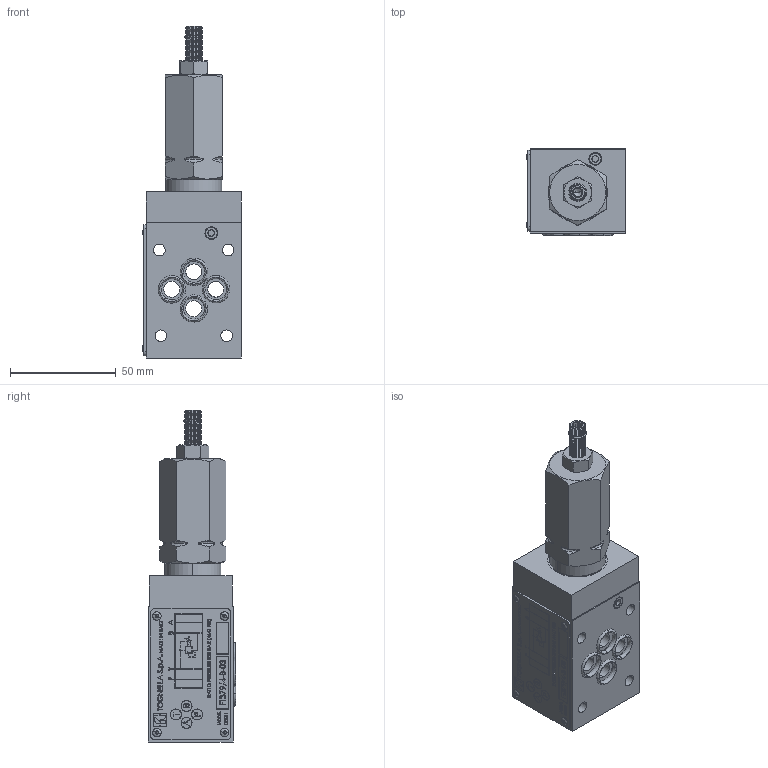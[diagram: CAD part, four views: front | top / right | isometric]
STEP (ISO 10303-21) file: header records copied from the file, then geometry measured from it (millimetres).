
FILE_DESCRIPTION (( 'STEP AP214' ), '1' );
FILE_NAME ('ASSIEME 379-4-B.STEP', '2019-10-14T08:51:08', ( '' ), ( '' ), 'SwSTEP 2.0', 'SolidWorks 2018', '' );
FILE_SCHEMA (( 'AUTOMOTIVE_DESIGN' ));
Length unit declared in the file: millimetre
Products named in the file (23): PISTONE OTTURATORE 276-4.050.00.0-78; VITE DI REGOLAZIONE 276-4.017.00.0-78; OR  3075; RIVETTO D=2 x L=4.6 TAPDM1BS LD FASTENERS; CORPO CARTUCCIA 279-4.101.00.0-78; DADO ESAGONALE M8x1 Sp.6.5 mm; ASSIEME 279-4-78-UNF; CORPO VALVOLA 379-3-B.001.00.0-03; OR 108; O-RING 2037; TAPPO EIS ETRS060SM UNIFAST; OR 2037; BUSSOLA 279-4.034.00.0-78; BUSSOLA DI TENUTA 276-4.018.00.0-78; MOLLA COMPENSATORE 276-4.030.00-1-78; ANELLO DI SICUREZZA RB7 DIN  7993; TARGHETTA 379-4-B.015.00.0-03; ASSIEME 379-4-B; PISTONE 279-4.019.00.0-78; SFERA D= 4mm; MOLLA CILINDRICA 276-4.009.00.1-78; OR2050-1; BK2050
Assembly tree (30 placements, depth 3):
  ASSIEME 379-4-B
    TARGHETTA 379-4-B.015.00.0-03
    ASSIEME 279-4-78-UNF
      CORPO CARTUCCIA 279-4.101.00.0-78
      BK2050  x2
      OR2050-1
      BUSSOLA 279-4.034.00.0-78
      PISTONE 279-4.019.00.0-78
      ANELLO DI SICUREZZA RB7 DIN  7993
      BUSSOLA DI TENUTA 276-4.018.00.0-78
      DADO ESAGONALE M8x1 Sp.6.5 mm
      MOLLA CILINDRICA 276-4.009.00.1-78
      MOLLA COMPENSATORE 276-4.030.00-1-78
      OR  3075
      OR 108
      OR 2037
      PISTONE OTTURATORE 276-4.050.00.0-78
      SFERA D= 4mm
      VITE DI REGOLAZIONE 276-4.017.00.0-78
    O-RING 2037  x4
    CORPO VALVOLA 379-3-B.001.00.0-03
    RIVETTO D=2 x L=4.6 TAPDM1BS LD FASTENERS  x4
    TAPPO EIS ETRS060SM UNIFAST  x2
Bounding box: 46.66 x 41.17 x 156.8 mm (x, y, z)
Volume: 158367 mm3; surface area: 57182 mm2
Topology: 29 solids, 29 shells, 2550 faces, 6183 edges, 3886 vertices
Faces by surface type: plane 1142, cone 652, bspline 411, cylinder 289, torus 46, sphere 10
Entity records: 112010 total; most frequent: CARTESIAN_POINT 42477, ORIENTED_EDGE 11820, DIRECTION 10179, EDGE_CURVE 5910, VERTEX_POINT 3727, LINE 3705, VECTOR 3705, AXIS2_PLACEMENT_3D 3237
